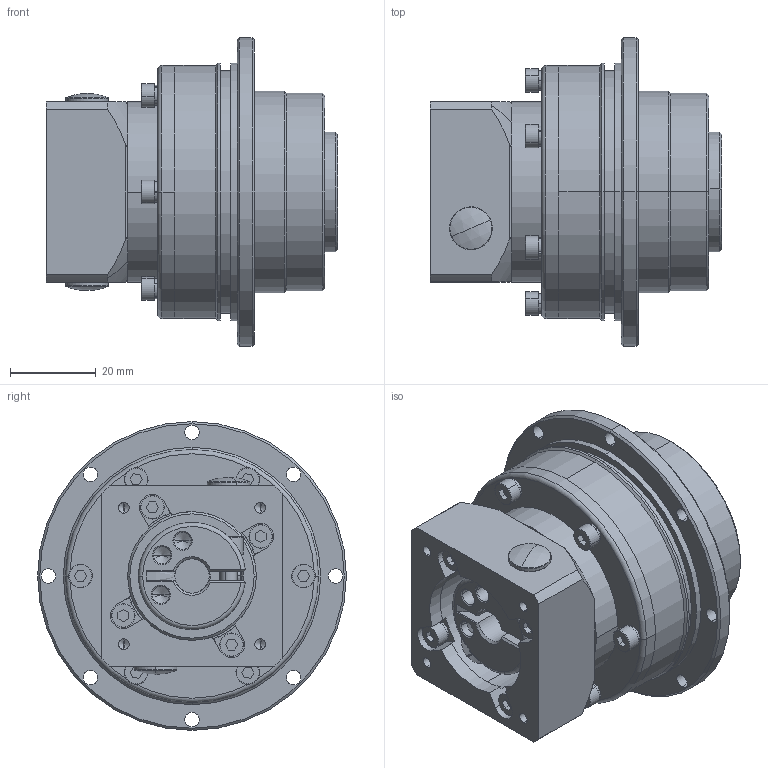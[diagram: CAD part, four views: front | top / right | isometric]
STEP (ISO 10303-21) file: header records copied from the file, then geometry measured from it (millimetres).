
FILE_DESCRIPTION (( 'STEP AP203' ), '1' );
FILE_NAME ('AD047L1-OP2-8-25-30-45-M3.STEP', '2020-03-10T07:37:34', ( 'dell' ), ( '' ), 'SwSTEP 2.0', 'SolidWorks 2018', '' );
FILE_SCHEMA (( 'CONFIG_CONTROL_DESIGN' ));
Length unit declared in the file: millimetre
Products named in the file (1): AD047L1-OP2-8-25-30-45-M3
Bounding box: 68 x 72 x 72 mm (x, y, z)
Volume: 83148.3 mm3; surface area: 51884.7 mm2
Topology: 31 solids, 31 shells, 965 faces, 2685 edges, 1700 vertices
Faces by surface type: cylinder 307, plane 259, sphere 146, torus 142, cone 107, bspline 4
Entity records: 33267 total; most frequent: CARTESIAN_POINT 8668, DIRECTION 5389, ORIENTED_EDGE 5078, EDGE_CURVE 2539, AXIS2_PLACEMENT_3D 2315, VERTEX_POINT 1644, CIRCLE 1353, EDGE_LOOP 1135
